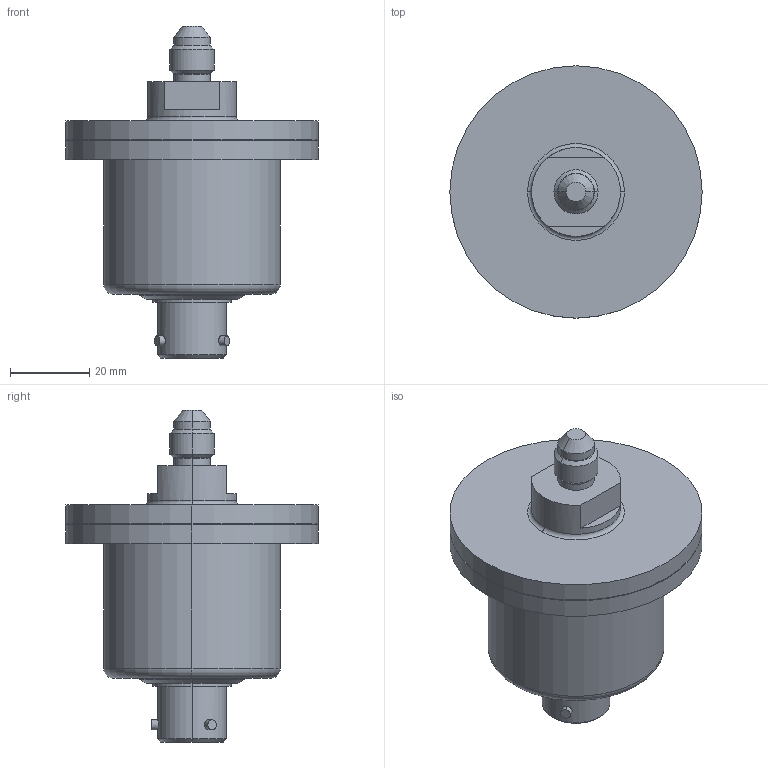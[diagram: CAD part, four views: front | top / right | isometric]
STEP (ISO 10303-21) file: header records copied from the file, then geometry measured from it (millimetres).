
FILE_DESCRIPTION (( 'STEP AP214' ), '1' );
FILE_NAME ('P56M-TYPE.STEP', '2008-01-31T15:34:05', ( 'Authorized User' ), ( 'Precision Sensors' ), 'SwSTEP 2.0', 'SolidWorks 2006303', '' );
FILE_SCHEMA (( 'AUTOMOTIVE_DESIGN' ));
Length unit declared in the file: inch
Products named in the file (1): P56M-TYPE
Bounding box: 63.5 x 63.5 x 83.54 mm (x, y, z)
Volume: 90724 mm3; surface area: 15247.6 mm2
Topology: 1 solids, 1 shells, 66 faces, 134 edges, 82 vertices
Faces by surface type: cylinder 28, plane 18, cone 12, torus 8
Entity records: 1877 total; most frequent: CARTESIAN_POINT 403, DIRECTION 342, ORIENTED_EDGE 268, AXIS2_PLACEMENT_3D 147, EDGE_CURVE 134, VERTEX_POINT 82, CIRCLE 80, EDGE_LOOP 78
